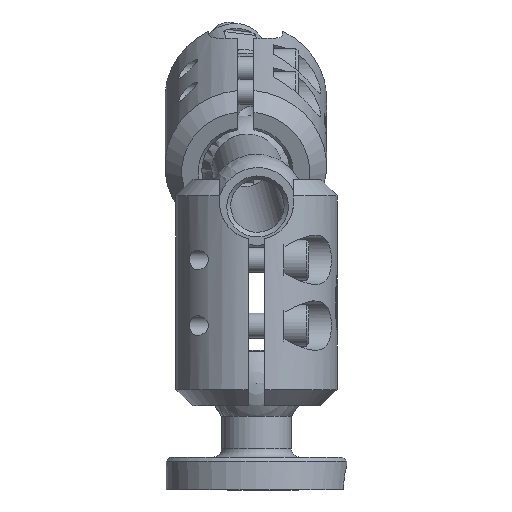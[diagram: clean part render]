
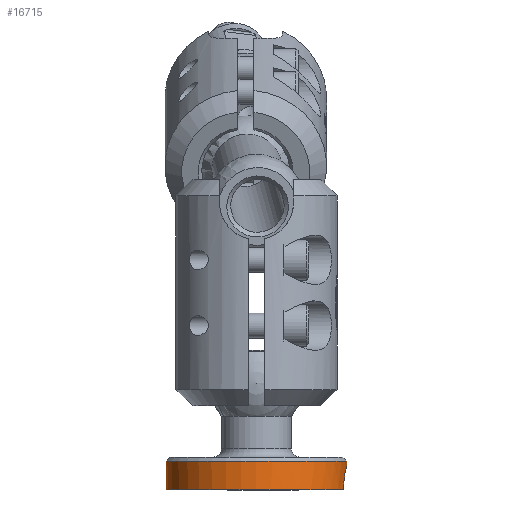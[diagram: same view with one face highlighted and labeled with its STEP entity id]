
A CAD part, left-side view. The second image highlights one B-rep face of the part: STEP entity #16715.
In plain terms, the highlighted cylindrical face has radius 17.462 mm (diameter 34.925 mm), a full revolution.
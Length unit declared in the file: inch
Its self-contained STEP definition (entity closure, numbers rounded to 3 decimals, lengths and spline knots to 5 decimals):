
#904 = CIRCLE ( 'NONE', #32468, 0.6875 ) ;
#2038 = CARTESIAN_POINT ( 'NONE',  ( -0.78782, -0.66179, -0.18627 ) ) ;
#2288 = CARTESIAN_POINT ( 'NONE',  ( -0.62501, -0.6875, -0.01247 ) ) ;
#2795 = CARTESIAN_POINT ( 'NONE',  ( -0.64408, -0.68253, -0.0833 ) ) ;
#3038 = CARTESIAN_POINT ( 'NONE',  ( -0.78759, -0.6618, 0.18625 ) ) ;
#3562 = CARTESIAN_POINT ( 'NONE',  ( -0.8125, -0.66144, 0.1875 ) ) ;
#6671 = CARTESIAN_POINT ( 'NONE',  ( -0.75185, -0.66412, -0.17784 ) ) ;
#7125 = ORIENTED_EDGE ( 'NONE', *, *, #15315, .T. ) ;
#7705 = CARTESIAN_POINT ( 'NONE',  ( -0.64402, -0.68254, 0.0832 ) ) ;
#7956 = CARTESIAN_POINT ( 'NONE',  ( -0.76343, -0.66315, 0.18139 ) ) ;
#10286 = FACE_OUTER_BOUND ( 'NONE', #33383, .T. ) ;
#13981 = CARTESIAN_POINT ( 'NONE',  ( -0.63138, -0.68579, -0.04888 ) ) ;
#14235 = CARTESIAN_POINT ( 'NONE',  ( -0.62499, -0.6875, 0.01212 ) ) ;
#15315 = EDGE_CURVE ( 'NONE', #30295, #30295, #28255, .T. ) ;
#15771 = CARTESIAN_POINT ( 'NONE',  ( -0.69793, -0.67121, 0.14892 ) ) ;
#16715 = ADVANCED_FACE ( 'NONE', ( #49555, #10286 ), #17584, .T. ) ;
#16722 = CARTESIAN_POINT ( 'NONE',  ( -0.8125, -0.66144, -0.1875 ) ) ;
#17067 = DIRECTION ( 'NONE',  ( -1., 0., 0. ) ) ;
#17584 = CYLINDRICAL_SURFACE ( 'NONE', #44843, 0.6875 ) ;
#17634 = CARTESIAN_POINT ( 'NONE',  ( -0.68852, -0.6729, -0.14119 ) ) ;
#17900 = CARTESIAN_POINT ( 'NONE',  ( -0.64987, -0.68111, -0.09412 ) ) ;
#18167 = CARTESIAN_POINT ( 'NONE',  ( -0.71843, -0.66802, -0.16266 ) ) ;
#18512 = DIRECTION ( 'NONE',  ( -1., 0., 0. ) ) ;
#19467 = CARTESIAN_POINT ( 'NONE',  ( -0.71817, -0.66805, 0.1625 ) ) ;
#20099 = ORIENTED_EDGE ( 'NONE', *, *, #25338, .F. ) ;
#20783 = DIRECTION ( 'NONE',  ( 0., 0., 1. ) ) ;
#22221 = CARTESIAN_POINT ( 'NONE',  ( -0.5925, 0., 0.6875 ) ) ;
#22576 = CARTESIAN_POINT ( 'NONE',  ( -0.66358, -0.67796, -0.11459 ) ) ;
#23407 = ORIENTED_EDGE ( 'NONE', *, *, #25410, .F. ) ;
#25338 = EDGE_CURVE ( 'NONE', #42040, #27910, #904, .T. ) ;
#25410 = EDGE_CURVE ( 'NONE', #27910, #42040, #40057, .T. ) ;
#26156 = CARTESIAN_POINT ( 'NONE',  ( 0.25, 0., 0. ) ) ;
#26202 = CARTESIAN_POINT ( 'NONE',  ( -0.63102, -0.68588, 0.0487 ) ) ;
#26453 = CARTESIAN_POINT ( 'NONE',  ( -0.80005, -0.66144, -0.1875 ) ) ;
#26724 = CARTESIAN_POINT ( 'NONE',  ( -0.8125, -0.66144, -0.1875 ) ) ;
#26979 = CARTESIAN_POINT ( 'NONE',  ( -0.6712, -0.67631, 0.12386 ) ) ;
#27242 = CARTESIAN_POINT ( 'NONE',  ( -0.66339, -0.678, 0.11433 ) ) ;
#27910 = VERTEX_POINT ( 'NONE', #16722 ) ;
#28255 = CIRCLE ( 'NONE', #29937, 0.6875 ) ;
#28342 = CARTESIAN_POINT ( 'NONE',  ( -0.8125, 0., 0. ) ) ;
#29568 = DIRECTION ( 'NONE',  ( 0., 0., 1. ) ) ;
#29937 = AXIS2_PLACEMENT_3D ( 'NONE', #30729, #18512, #34374 ) ;
#30131 = CARTESIAN_POINT ( 'NONE',  ( -0.62622, -0.68717, 0.02461 ) ) ;
#30295 = VERTEX_POINT ( 'NONE', #22221 ) ;
#30645 = CARTESIAN_POINT ( 'NONE',  ( -0.72918, -0.66657, -0.16842 ) ) ;
#30729 = CARTESIAN_POINT ( 'NONE',  ( -0.5925, 0., 0. ) ) ;
#31128 = EDGE_LOOP ( 'NONE', ( #23407, #20099 ) ) ;
#31154 = CARTESIAN_POINT ( 'NONE',  ( -0.80005, -0.66144, 0.1875 ) ) ;
#31959 = CARTESIAN_POINT ( 'NONE',  ( -0.8125, -0.66144, 0.1875 ) ) ;
#32468 = AXIS2_PLACEMENT_3D ( 'NONE', #28342, #44165, #20783 ) ;
#33383 = EDGE_LOOP ( 'NONE', ( #7125 ) ) ;
#33512 = CARTESIAN_POINT ( 'NONE',  ( -0.63705, -0.68431, -0.06641 ) ) ;
#33772 = CARTESIAN_POINT ( 'NONE',  ( -0.63497, -0.68485, -0.06065 ) ) ;
#34024 = CARTESIAN_POINT ( 'NONE',  ( -0.67132, -0.67628, -0.12399 ) ) ;
#34374 = DIRECTION ( 'NONE',  ( 0., 0., 1. ) ) ;
#34794 = CARTESIAN_POINT ( 'NONE',  ( -0.64985, -0.68111, 0.09408 ) ) ;
#35053 = CARTESIAN_POINT ( 'NONE',  ( -0.68853, -0.6729, 0.14121 ) ) ;
#37923 = CARTESIAN_POINT ( 'NONE',  ( -0.62622, -0.68716, -0.02467 ) ) ;
#40057 = B_SPLINE_CURVE_WITH_KNOTS ( 'NONE', 3,
 ( #26724, #26453, #2038, #42296, #6671, #30645, #18167, #49868, #17634, #34024, #22576, #17900, #2795, #33512, #33772, #13981, #45695, #37923, #2288, #14235, #30131, #26202, #42047, #7705, #34794, #27242, #26979, #35053, #15771, #19467, #50884, #43582, #7956, #3038, #31154, #3562 ),
 .UNSPECIFIED., .F., .F.,
 ( 4, 2, 2, 2, 2, 2, 2, 2, 2, 2, 2, 2, 2, 2, 2, 2, 2, 4 ),
 ( 0., 0.00093, 0.00187, 0.0028, 0.00374, 0.00467, 0.00561, 0.00608, 0.00654, 0.00748, 0.00841, 0.00935, 0.01028, 0.01122, 0.01215, 0.01309, 0.01402, 0.01496 ),
 .UNSPECIFIED. ) ;
#42040 = VERTEX_POINT ( 'NONE', #31959 ) ;
#42047 = CARTESIAN_POINT ( 'NONE',  ( -0.63457, -0.68494, 0.06042 ) ) ;
#42296 = CARTESIAN_POINT ( 'NONE',  ( -0.76379, -0.66312, -0.18148 ) ) ;
#43582 = CARTESIAN_POINT ( 'NONE',  ( -0.75175, -0.66413, 0.17781 ) ) ;
#44165 = DIRECTION ( 'NONE',  ( -1., 0., 0. ) ) ;
#44843 = AXIS2_PLACEMENT_3D ( 'NONE', #26156, #17067, #29568 ) ;
#45695 = CARTESIAN_POINT ( 'NONE',  ( -0.62985, -0.68619, -0.04284 ) ) ;
#49555 = FACE_OUTER_BOUND ( 'NONE', #31128, .T. ) ;
#49868 = CARTESIAN_POINT ( 'NONE',  ( -0.6981, -0.67118, -0.14906 ) ) ;
#50884 = CARTESIAN_POINT ( 'NONE',  ( -0.72915, -0.66657, 0.1684 ) ) ;
